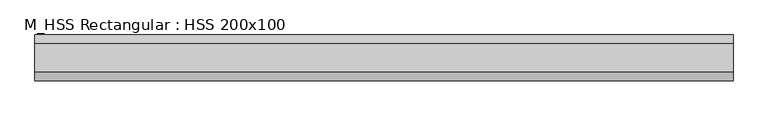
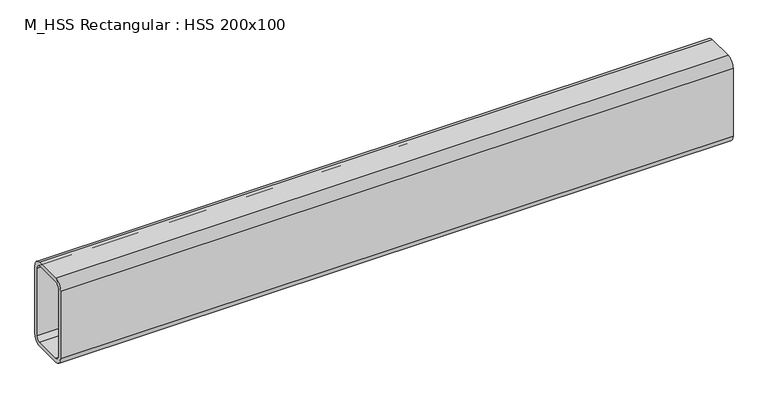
"""IFC4 building model written with IfcOpenShell, lengths in millimetres: beam geometry, M_HSS Rectangular : HSS 200x100."""

from ifc_helpers import new_model, si_unit, point, frame, frame_2d, origin, place, context, project, spatial, polyline, circle_curve, trimmed, segment, composite_curve, outline, extrude, source, transform, mapped, element, save


def m_hss_rectangular_hss_200x100_fa2a969a(model_context):
    return source(origin(), model_context, "Body", "SweptSolid", [
        extrude(outline(composite_curve([segment(trimmed(circle_curve(frame_2d((-30.94, 80.94)), 19.06), [point((-50.0, 80.94))], [point((-30.94, 100.0))], False, "CARTESIAN"), True, "CONTINUOUS"), segment(polyline([(-30.94, 100.0), (30.94, 100.0)]), True, "CONTINUOUS"), segment(trimmed(circle_curve(frame_2d((30.94, 80.94)), 19.06), [point((30.94, 100.0))], [point((50.0, 80.94))], False, "CARTESIAN"), True, "CONTINUOUS"), segment(polyline([(50.0, 80.94), (50.0, -80.94)]), True, "CONTINUOUS"), segment(trimmed(circle_curve(frame_2d((30.94, -80.94)), 19.06), [point((50.0, -80.94))], [point((30.94, -100.0))], False, "CARTESIAN"), True, "CONTINUOUS"), segment(polyline([(30.94, -100.0), (-30.94, -100.0)]), True, "CONTINUOUS"), segment(trimmed(circle_curve(frame_2d((-30.94, -80.94)), 19.06), [point((-30.94, -100.0))], [point((-50.0, -80.94))], False, "CARTESIAN"), True, "CONTINUOUS"), segment(polyline([(-50.0, -80.94), (-50.0, 80.94)]), True, "CONTINUOUS")], self_intersect=False), holes=[composite_curve([segment(polyline([(30.94, 90.47), (-30.94, 90.47)]), True, "CONTINUOUS"), segment(trimmed(circle_curve(frame_2d((-30.94, 80.94)), 9.53), [point((-30.94, 90.47))], [point((-40.47, 80.94))], True, "CARTESIAN"), True, "CONTINUOUS"), segment(polyline([(-40.47, 80.94), (-40.47, -80.94)]), True, "CONTINUOUS"), segment(trimmed(circle_curve(frame_2d((-30.94, -80.94)), 9.53), [point((-40.47, -80.94))], [point((-30.94, -90.47))], True, "CARTESIAN"), True, "CONTINUOUS"), segment(polyline([(-30.94, -90.47), (30.94, -90.47)]), True, "CONTINUOUS"), segment(trimmed(circle_curve(frame_2d((30.94, -80.94)), 9.53), [point((30.94, -90.47))], [point((40.47, -80.94))], True, "CARTESIAN"), True, "CONTINUOUS"), segment(polyline([(40.47, -80.94), (40.47, 80.94)]), True, "CONTINUOUS"), segment(trimmed(circle_curve(frame_2d((30.94, 80.94)), 9.53), [point((40.47, 80.94))], [point((30.94, 90.47))], True, "CARTESIAN"), True, "CONTINUOUS")], self_intersect=False)]), frame((-758.55, 0.0, 0.0), z_axis=(1.0, 0.0, 0.0), x_axis=(0.0, 1.0, 0.0)), (0.0, 0.0, 1.0), 1517.1),
    ])


if __name__ == "__main__":
    model = new_model("IFC4")
    model_context = context("Model", 3, world=origin())
    ifc_project = project(units=[si_unit("LENGTHUNIT", "METRE", prefix="MILLI")], contexts=[model_context])
    site = spatial("IfcSite", under=ifc_project)
    building = spatial("IfcBuilding", under=site)
    placement = place(None, origin())
    m_hss_rectangular_hss_200x100_shape = m_hss_rectangular_hss_200x100_fa2a969a(model_context)
    element("IfcBeam", 1, ObjectType="M_HSS Rectangular : HSS 200x100", at=placement, inside=building, context=model_context, shape_type="MappedRepresentation", body=[
        mapped(m_hss_rectangular_hss_200x100_shape, transform((0.0, 0.0, 0.0), x_axis=(1.0, 0.0, 0.0), y_axis=(0.0, 1.0, 0.0), z_axis=(0.0, 0.0, 1.0))),
    ])
    save(model, "model.ifc")
